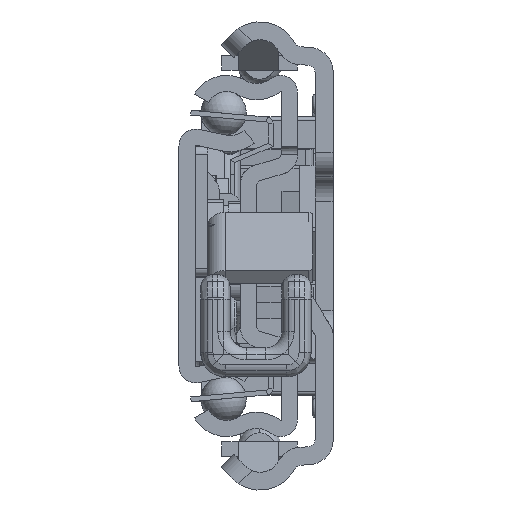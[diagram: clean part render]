
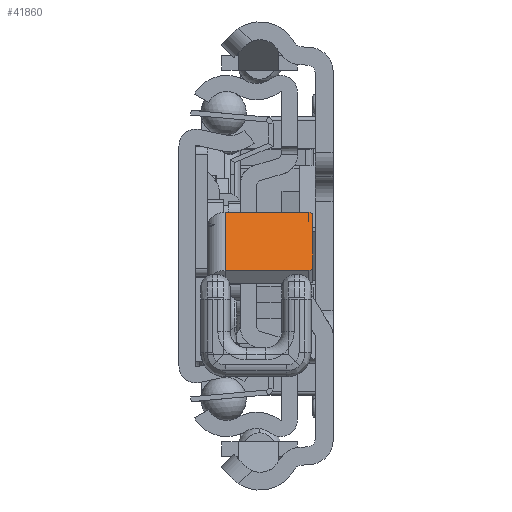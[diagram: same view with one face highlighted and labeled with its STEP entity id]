
A CAD part, left-side view. The second image highlights one B-rep face of the part: STEP entity #41860.
In plain terms, the highlighted planar face has unit normal (-0.597, 0, 0.802) as drawn and (-0.597, -0.802, 0) by its records, which use the part's own axes.
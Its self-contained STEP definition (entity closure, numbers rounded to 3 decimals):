
#41248=DIRECTION('',(0.802,-0.597,0.));
#41249=VECTOR('',#41248,12.);
#41250=CARTESIAN_POINT('',(31.957,-10.314,-0.2));
#41251=LINE('',#41250,#41249);
#41276=DIRECTION('',(0.,0.,1.));
#41277=VECTOR('',#41276,10.3);
#41278=CARTESIAN_POINT('',(41.586,-17.476,-10.5));
#41279=LINE('',#41278,#41277);
#41280=CARTESIAN_POINT('',(41.184,-17.178,-10.5));
#41281=DIRECTION('',(-0.597,-0.802,0.));
#41282=DIRECTION('',(0.,0.,-1.));
#41283=AXIS2_PLACEMENT_3D('',#41280,#41281,#41282);
#41285=DIRECTION('',(0.802,-0.597,0.));
#41286=VECTOR('',#41285,11.);
#41287=CARTESIAN_POINT('',(32.358,-10.613,-11.));
#41288=LINE('',#41287,#41286);
#41289=CARTESIAN_POINT('',(32.358,-10.613,-10.5));
#41290=DIRECTION('',(-0.597,-0.802,0.));
#41291=DIRECTION('',(-0.802,0.597,0.));
#41292=AXIS2_PLACEMENT_3D('',#41289,#41290,#41291);
#41294=DIRECTION('',(0.,0.,-1.));
#41295=VECTOR('',#41294,10.3);
#41296=CARTESIAN_POINT('',(31.957,-10.314,-0.2));
#41297=LINE('',#41296,#41295);
#41514=CARTESIAN_POINT('',(31.957,-10.314,-0.2));
#41515=CARTESIAN_POINT('',(41.586,-17.476,-0.2));
#41516=VERTEX_POINT('',#41514);
#41517=VERTEX_POINT('',#41515);
#41546=CARTESIAN_POINT('',(41.586,-17.476,-10.5));
#41547=VERTEX_POINT('',#41546);
#41548=CARTESIAN_POINT('',(32.358,-10.613,-11.));
#41549=CARTESIAN_POINT('',(41.184,-17.178,-11.));
#41550=VERTEX_POINT('',#41548);
#41551=VERTEX_POINT('',#41549);
#41552=CARTESIAN_POINT('',(31.957,-10.314,-10.5));
#41553=VERTEX_POINT('',#41552);
#41842=CARTESIAN_POINT('',(34.726,-12.374,2.));
#41843=DIRECTION('',(0.597,0.802,0.));
#41844=DIRECTION('',(0.802,-0.597,0.));
#41845=AXIS2_PLACEMENT_3D('',#41842,#41843,#41844);
#41846=PLANE('',#41845);
#41848=ORIENTED_EDGE('',*,*,#41847,.F.);
#41850=ORIENTED_EDGE('',*,*,#41849,.F.);
#41852=ORIENTED_EDGE('',*,*,#41851,.F.);
#41854=ORIENTED_EDGE('',*,*,#41853,.F.);
#41856=ORIENTED_EDGE('',*,*,#41855,.F.);
#41857=ORIENTED_EDGE('',*,*,#41829,.T.);
#41858=EDGE_LOOP('',(#41848,#41850,#41852,#41854,#41856,#41857));
#41859=FACE_OUTER_BOUND('',#41858,.F.);
#41284=CIRCLE('',#41283,0.5);
#41293=CIRCLE('',#41292,0.5);
#41829=EDGE_CURVE('',#41516,#41517,#41251,.T.);
#41847=EDGE_CURVE('',#41547,#41517,#41279,.T.);
#41849=EDGE_CURVE('',#41551,#41547,#41284,.T.);
#41851=EDGE_CURVE('',#41550,#41551,#41288,.T.);
#41853=EDGE_CURVE('',#41553,#41550,#41293,.T.);
#41855=EDGE_CURVE('',#41516,#41553,#41297,.T.);
#41860=ADVANCED_FACE('',(#41859),#41846,.F.);
